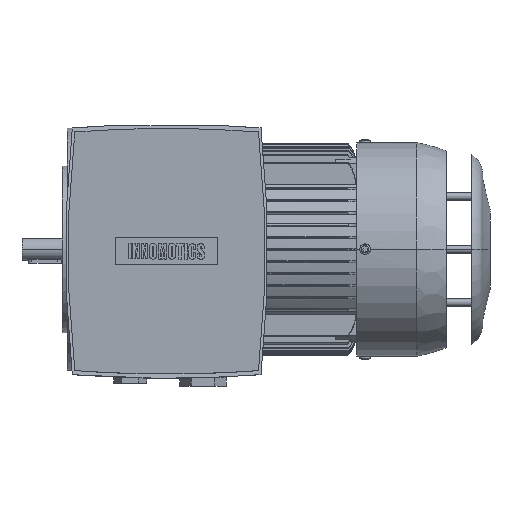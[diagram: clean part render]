
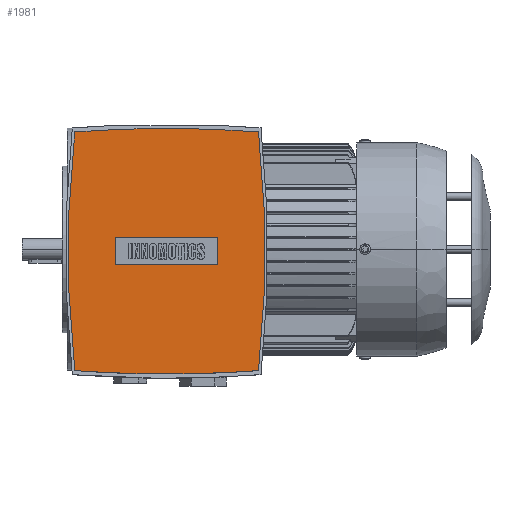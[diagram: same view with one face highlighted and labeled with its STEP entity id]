
A CAD part, top view. The second image highlights one B-rep face of the part: STEP entity #1981.
In plain terms, the highlighted planar face has unit normal (0, 0, 1).
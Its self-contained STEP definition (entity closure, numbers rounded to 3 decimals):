
#1981=ADVANCED_FACE('',(#4148,#4149),#4150,.T.);
#4148=FACE_BOUND('',#6489,.T.);
#4149=FACE_OUTER_BOUND('',#6490,.T.);
#4150=PLANE('',#6491);
#6489=EDGE_LOOP('',(#12602,#12603,#12604,#12605));
#6490=EDGE_LOOP('',(#12606,#12607,#12608,#12609,#12610,#12611));
#6491=AXIS2_PLACEMENT_3D('',#12612,#12613,#12614);
#12602=ORIENTED_EDGE('',*,*,#16246,.T.);
#12603=ORIENTED_EDGE('',*,*,#16250,.T.);
#12604=ORIENTED_EDGE('',*,*,#16253,.T.);
#12605=ORIENTED_EDGE('',*,*,#16255,.T.);
#12606=ORIENTED_EDGE('',*,*,#16323,.T.);
#12607=ORIENTED_EDGE('',*,*,#16314,.T.);
#12608=ORIENTED_EDGE('',*,*,#14181,.T.);
#12609=ORIENTED_EDGE('',*,*,#16310,.T.);
#12610=ORIENTED_EDGE('',*,*,#14166,.T.);
#12611=ORIENTED_EDGE('',*,*,#16321,.T.);
#12612=CARTESIAN_POINT('',(42.5,-1.5,173.0));
#12613=DIRECTION('',(0.0,0.0,1.0));
#12614=DIRECTION('',(0.0,-1.0,0.0));
#14166=EDGE_CURVE('',#17058,#17055,#17059,.T.);
#14181=EDGE_CURVE('',#17080,#17084,#17086,.T.);
#16246=EDGE_CURVE('',#20172,#20170,#20173,.T.);
#16250=EDGE_CURVE('',#20170,#20176,#20178,.T.);
#16253=EDGE_CURVE('',#20176,#20180,#20182,.T.);
#16255=EDGE_CURVE('',#20180,#20172,#20184,.T.);
#16310=EDGE_CURVE('',#17084,#17058,#20261,.T.);
#16314=EDGE_CURVE('',#20265,#17080,#20266,.T.);
#16321=EDGE_CURVE('',#17055,#20273,#20275,.T.);
#16323=EDGE_CURVE('',#20273,#20265,#20277,.T.);
#17055=VERTEX_POINT('',#21444);
#17058=VERTEX_POINT('',#21448);
#17059=CIRCLE('',#21449,828.12);
#17080=VERTEX_POINT('',#21496);
#17084=VERTEX_POINT('',#21501);
#17086=CIRCLE('',#21504,828.12);
#20170=VERTEX_POINT('',#30705);
#20172=VERTEX_POINT('',#30708);
#20173=LINE('',#30709,#30710);
#20176=VERTEX_POINT('',#30714);
#20178=LINE('',#30717,#30718);
#20180=VERTEX_POINT('',#30720);
#20182=LINE('',#30723,#30724);
#20184=LINE('',#30726,#30727);
#20261=CIRCLE('',#30842,717.2);
#20265=VERTEX_POINT('',#30846);
#20266=CIRCLE('',#30847,828.12);
#20273=VERTEX_POINT('',#30856);
#20275=CIRCLE('',#30859,828.12);
#20277=CIRCLE('',#30861,717.2);
#21444=CARTESIAN_POINT('',(42.5,79.5,173.0));
#21448=CARTESIAN_POINT('',(103.161,77.275,173.0));
#21449=AXIS2_PLACEMENT_3D('',#31988,#31989,#31990);
#21496=CARTESIAN_POINT('',(42.5,-82.5,173.0));
#21501=CARTESIAN_POINT('',(103.161,-80.275,173.0));
#21504=AXIS2_PLACEMENT_3D('',#32012,#32013,#32014);
#30705=CARTESIAN_POINT('',(8.75,-10.55,173.0));
#30708=CARTESIAN_POINT('',(76.25,-10.55,173.0));
#30709=CARTESIAN_POINT('',(42.5,-10.55,173.0));
#30710=VECTOR('',#33829,1.0);
#30714=CARTESIAN_POINT('',(8.75,7.55,173.0));
#30717=CARTESIAN_POINT('',(8.75,-1.5,173.0));
#30718=VECTOR('',#33832,1.0);
#30720=CARTESIAN_POINT('',(76.25,7.55,173.0));
#30723=CARTESIAN_POINT('',(42.5,7.55,173.0));
#30724=VECTOR('',#33834,1.0);
#30726=CARTESIAN_POINT('',(76.25,-1.5,173.0));
#30727=VECTOR('',#33835,1.0);
#30842=AXIS2_PLACEMENT_3D('',#33916,#33917,#33918);
#30846=CARTESIAN_POINT('',(-18.161,-80.275,173.0));
#30847=AXIS2_PLACEMENT_3D('',#33922,#33923,#33924);
#30856=CARTESIAN_POINT('',(-18.161,77.275,173.0));
#30859=AXIS2_PLACEMENT_3D('',#33931,#33932,#33933);
#30861=AXIS2_PLACEMENT_3D('',#33934,#33935,#33936);
#31988=CARTESIAN_POINT('',(42.5,-748.62,173.0));
#31989=DIRECTION('',(0.0,-0.0,1.0));
#31990=DIRECTION('',(0.0,1.0,0.0));
#32012=CARTESIAN_POINT('',(42.5,745.62,173.0));
#32013=DIRECTION('',(0.0,-0.0,1.0));
#32014=DIRECTION('',(0.0,1.0,0.0));
#33829=DIRECTION('',(-1.0,0.0,0.0));
#33832=DIRECTION('',(0.0,1.0,0.0));
#33834=DIRECTION('',(1.0,0.0,-0.0));
#33835=DIRECTION('',(0.0,-1.0,0.0));
#33916=CARTESIAN_POINT('',(-609.7,-1.5,173.0));
#33917=DIRECTION('',(0.0,-0.0,1.0));
#33918=DIRECTION('',(0.0,1.0,0.0));
#33922=CARTESIAN_POINT('',(42.5,745.62,173.0));
#33923=DIRECTION('',(0.0,-0.0,1.0));
#33924=DIRECTION('',(0.0,1.0,0.0));
#33931=CARTESIAN_POINT('',(42.5,-748.62,173.0));
#33932=DIRECTION('',(0.0,-0.0,1.0));
#33933=DIRECTION('',(0.0,1.0,0.0));
#33934=CARTESIAN_POINT('',(694.7,-1.5,173.0));
#33935=DIRECTION('',(0.0,-0.0,1.0));
#33936=DIRECTION('',(0.0,1.0,0.0));
